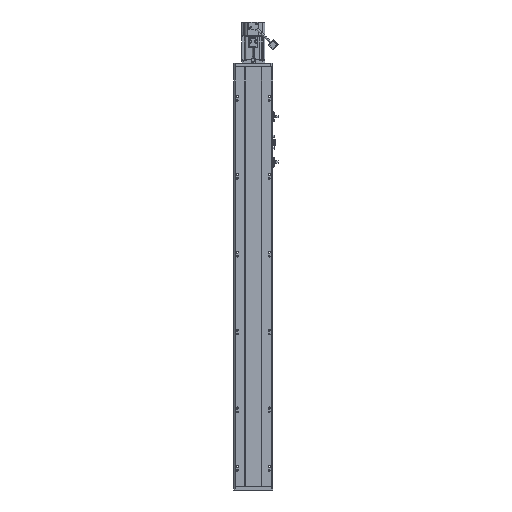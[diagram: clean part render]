
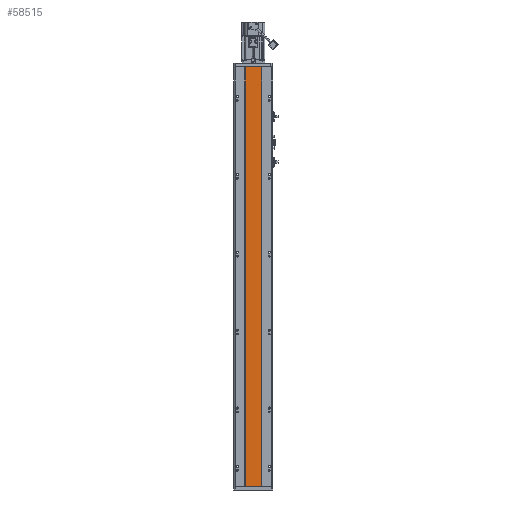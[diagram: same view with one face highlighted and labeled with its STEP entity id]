
A CAD part, front view. The second image highlights one B-rep face of the part: STEP entity #58515.
In plain terms, the highlighted planar face has unit normal (0, -1, 0).
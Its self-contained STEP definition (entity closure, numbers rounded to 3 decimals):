
#7350 = EDGE_LOOP ( 'NONE', ( #50169, #57696, #60295, #61438 ) ) ;
#8905 = CARTESIAN_POINT ( 'NONE',  ( -20., 0., 0. ) ) ;
#11087 = CARTESIAN_POINT ( 'NONE',  ( 20., 0., -1078.5 ) ) ;
#16997 = PLANE ( 'NONE',  #37135 ) ;
#20114 = EDGE_CURVE ( 'NONE', #31669, #73356, #92729, .T. ) ;
#20447 = EDGE_CURVE ( 'NONE', #73356, #68302, #89569, .T. ) ;
#21246 = EDGE_CURVE ( 'NONE', #74455, #68302, #76755, .T. ) ;
#21389 = EDGE_CURVE ( 'NONE', #31669, #74455, #76086, .T. ) ;
#24107 = DIRECTION ( 'NONE',  ( 0., 0., 1. ) ) ;
#24941 = DIRECTION ( 'NONE',  ( -1., 0., 0. ) ) ;
#31669 = VERTEX_POINT ( 'NONE', #45840 ) ;
#32138 = CARTESIAN_POINT ( 'NONE',  ( -20., 0., -1078.5 ) ) ;
#35084 = DIRECTION ( 'NONE',  ( 0., 0., 1. ) ) ;
#37135 = AXIS2_PLACEMENT_3D ( 'NONE', #48166, #72106, #24941 ) ;
#45840 = CARTESIAN_POINT ( 'NONE',  ( 20., 0., -1078.5 ) ) ;
#47104 = DIRECTION ( 'NONE',  ( -1., 0., 0. ) ) ;
#48166 = CARTESIAN_POINT ( 'NONE',  ( 20., 0., -1078.5 ) ) ;
#50169 = ORIENTED_EDGE ( 'NONE', *, *, #20447, .T. ) ;
#57696 = ORIENTED_EDGE ( 'NONE', *, *, #21246, .F. ) ;
#58515 = ADVANCED_FACE ( 'NONE', ( #77397 ), #16997, .F. ) ;
#60295 = ORIENTED_EDGE ( 'NONE', *, *, #21389, .F. ) ;
#61438 = ORIENTED_EDGE ( 'NONE', *, *, #20114, .T. ) ;
#66079 = CARTESIAN_POINT ( 'NONE',  ( -20., 0., -1078.5 ) ) ;
#68302 = VERTEX_POINT ( 'NONE', #8905 ) ;
#72106 = DIRECTION ( 'NONE',  ( 0., 1., 0. ) ) ;
#73356 = VERTEX_POINT ( 'NONE', #83725 ) ;
#74455 = VERTEX_POINT ( 'NONE', #66079 ) ;
#75188 = VECTOR ( 'NONE', #88892, 1000. ) ;
#76086 = LINE ( 'NONE', #80925, #75188 ) ;
#76357 = VECTOR ( 'NONE', #24107, 1000. ) ;
#76755 = LINE ( 'NONE', #32138, #76357 ) ;
#77397 = FACE_OUTER_BOUND ( 'NONE', #7350, .T. ) ;
#80925 = CARTESIAN_POINT ( 'NONE',  ( 20., 0., -1078.5 ) ) ;
#83725 = CARTESIAN_POINT ( 'NONE',  ( 20., 0., 0. ) ) ;
#88697 = VECTOR ( 'NONE', #47104, 1000. ) ;
#88892 = DIRECTION ( 'NONE',  ( -1., 0., 0. ) ) ;
#89569 = LINE ( 'NONE', #101968, #88697 ) ;
#92685 = VECTOR ( 'NONE', #35084, 1000. ) ;
#92729 = LINE ( 'NONE', #11087, #92685 ) ;
#101968 = CARTESIAN_POINT ( 'NONE',  ( 20., 0., 0. ) ) ;
